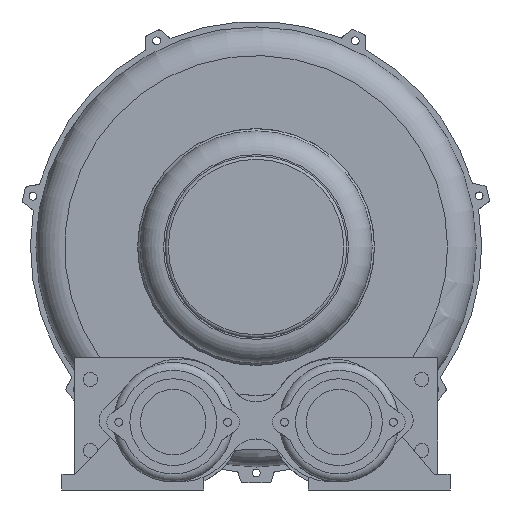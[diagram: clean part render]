
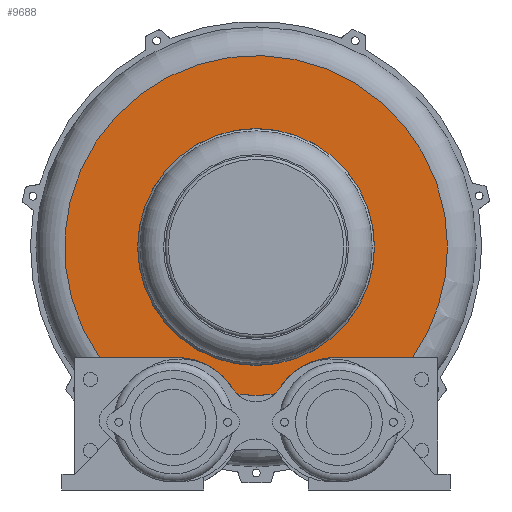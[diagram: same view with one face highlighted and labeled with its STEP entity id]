
A CAD part, front view. The second image highlights one B-rep face of the part: STEP entity #9688.
In plain terms, the highlighted conical face has half-angle 89.974 degrees and reference radius 121.341 mm.
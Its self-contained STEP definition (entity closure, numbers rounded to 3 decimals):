
#20=CONICAL_SURFACE('',#10442,121.341,1.57);
#47=B_SPLINE_CURVE_WITH_KNOTS('',3,(#14998,#14999,#15000,#15001),
 .UNSPECIFIED.,.F.,.F.,(4,4),(0.06,0.109),
 .UNSPECIFIED.);
#49=B_SPLINE_CURVE_WITH_KNOTS('',3,(#15012,#15013,#15014,#15015,#15016,
#15017,#15018,#15019,#15020,#15021),.UNSPECIFIED.,.F.,.F.,(4,1,1,1,1,1,
1,4),(0.,0.012,0.017,0.023,
0.029,0.035,0.04,0.046),
 .UNSPECIFIED.);
#50=B_SPLINE_CURVE_WITH_KNOTS('',3,(#15026,#15027,#15028,#15029,#15030,
#15031,#15032,#15033,#15034,#15035),.UNSPECIFIED.,.F.,.F.,(4,1,1,1,1,1,
1,4),(0.,0.004,0.006,0.008,
0.012,0.016,0.024,0.032),
 .UNSPECIFIED.);
#51=B_SPLINE_CURVE_WITH_KNOTS('',3,(#15039,#15040,#15041,#15042,#15043,
#15044,#15045,#15046,#15047,#15048),.UNSPECIFIED.,.F.,.F.,(4,1,1,1,1,1,
1,4),(0.,0.012,0.017,0.023,
0.029,0.035,0.04,0.046),
 .UNSPECIFIED.);
#53=B_SPLINE_CURVE_WITH_KNOTS('',3,(#15056,#15057,#15058,#15059),
 .UNSPECIFIED.,.F.,.F.,(4,4),(0.05,0.099),
 .UNSPECIFIED.);
#2661=ORIENTED_EDGE('',*,*,#5307,.F.);
#2662=ORIENTED_EDGE('',*,*,#5278,.F.);
#2663=ORIENTED_EDGE('',*,*,#5282,.F.);
#2664=ORIENTED_EDGE('',*,*,#5285,.F.);
#2665=ORIENTED_EDGE('',*,*,#5287,.F.);
#2666=ORIENTED_EDGE('',*,*,#5290,.F.);
#2667=ORIENTED_EDGE('',*,*,#5306,.T.);
#5278=EDGE_CURVE('',#6673,#6674,#47,.T.);
#5282=EDGE_CURVE('',#6676,#6673,#49,.T.);
#5285=EDGE_CURVE('',#6677,#6676,#50,.T.);
#5287=EDGE_CURVE('',#6678,#6677,#51,.T.);
#5290=EDGE_CURVE('',#6679,#6678,#53,.T.);
#5306=EDGE_CURVE('',#6679,#6674,#7602,.T.);
#5307=EDGE_CURVE('',#6690,#6690,#7603,.T.);
#6673=VERTEX_POINT('',#14997);
#6674=VERTEX_POINT('',#15002);
#6676=VERTEX_POINT('',#15011);
#6677=VERTEX_POINT('',#15025);
#6678=VERTEX_POINT('',#15038);
#6679=VERTEX_POINT('',#15055);
#6690=VERTEX_POINT('',#15108);
#7602=CIRCLE('',#10441,121.341);
#7603=CIRCLE('',#10443,75.077);
#8171=EDGE_LOOP('',(#2661));
#8172=EDGE_LOOP('',(#2662,#2663,#2664,#2665,#2666,#2667));
#8803=FACE_BOUND('',#8171,.T.);
#8804=FACE_BOUND('',#8172,.T.);
#9688=ADVANCED_FACE('',(#8803,#8804),#20,.F.);
#10441=AXIS2_PLACEMENT_3D('',#15105,#12087,#12088);
#10442=AXIS2_PLACEMENT_3D('',#15106,#12089,#12090);
#10443=AXIS2_PLACEMENT_3D('',#15107,#12091,#12092);
#12087=DIRECTION('',(0.,-1.,0.));
#12088=DIRECTION('',(1.,0.,0.));
#12089=DIRECTION('',(0.,-1.,0.));
#12090=DIRECTION('',(1.,0.,0.));
#12091=DIRECTION('',(0.,-1.,0.));
#12092=DIRECTION('',(1.,0.,0.));
#14997=CARTESIAN_POINT('',(-50.352,-77.498,-69.994));
#14998=CARTESIAN_POINT('',(-50.352,-77.498,-69.994));
#14999=CARTESIAN_POINT('',(-66.607,-77.502,-69.994));
#15000=CARTESIAN_POINT('',(-82.863,-77.508,-69.994));
#15001=CARTESIAN_POINT('',(-99.118,-77.514,-69.994));
#15002=CARTESIAN_POINT('',(-99.118,-77.514,-69.994));
#15011=CARTESIAN_POINT('',(-12.919,-77.502,-93.203));
#15012=CARTESIAN_POINT('',(-12.919,-77.502,-93.203));
#15013=CARTESIAN_POINT('',(-14.653,-77.5,-89.71));
#15014=CARTESIAN_POINT('',(-17.904,-77.498,-84.95));
#15015=CARTESIAN_POINT('',(-23.558,-77.497,-79.539));
#15016=CARTESIAN_POINT('',(-28.224,-77.496,-76.177));
#15017=CARTESIAN_POINT('',(-33.391,-77.495,-73.442));
#15018=CARTESIAN_POINT('',(-38.848,-77.496,-71.472));
#15019=CARTESIAN_POINT('',(-44.495,-77.497,-70.271));
#15020=CARTESIAN_POINT('',(-48.402,-77.497,-69.994));
#15021=CARTESIAN_POINT('',(-50.352,-77.498,-69.994));
#15025=CARTESIAN_POINT('',(12.919,-77.502,-93.203));
#15026=CARTESIAN_POINT('',(12.919,-77.502,-93.203));
#15027=CARTESIAN_POINT('',(12.32,-77.502,-94.409));
#15028=CARTESIAN_POINT('',(11.198,-77.503,-96.052));
#15029=CARTESIAN_POINT('',(9.247,-77.503,-97.919));
#15030=CARTESIAN_POINT('',(7.095,-77.504,-99.469));
#15031=CARTESIAN_POINT('',(4.006,-77.505,-100.84));
#15032=CARTESIAN_POINT('',(-1.331,-77.505,-101.588));
#15033=CARTESIAN_POINT('',(-7.982,-77.504,-99.7));
#15034=CARTESIAN_POINT('',(-11.722,-77.503,-95.614));
#15035=CARTESIAN_POINT('',(-12.919,-77.502,-93.203));
#15038=CARTESIAN_POINT('',(50.352,-77.498,-69.994));
#15039=CARTESIAN_POINT('',(50.352,-77.498,-69.994));
#15040=CARTESIAN_POINT('',(46.452,-77.497,-69.994));
#15041=CARTESIAN_POINT('',(40.743,-77.496,-70.79));
#15042=CARTESIAN_POINT('',(33.382,-77.495,-73.447));
#15043=CARTESIAN_POINT('',(28.296,-77.496,-76.132));
#15044=CARTESIAN_POINT('',(23.549,-77.497,-79.544));
#15045=CARTESIAN_POINT('',(19.358,-77.498,-83.555));
#15046=CARTESIAN_POINT('',(15.771,-77.499,-88.079));
#15047=CARTESIAN_POINT('',(13.786,-77.501,-91.456));
#15048=CARTESIAN_POINT('',(12.919,-77.502,-93.203));
#15055=CARTESIAN_POINT('',(99.118,-77.514,-69.994));
#15056=CARTESIAN_POINT('',(99.118,-77.514,-69.994));
#15057=CARTESIAN_POINT('',(82.863,-77.508,-69.994));
#15058=CARTESIAN_POINT('',(66.607,-77.502,-69.994));
#15059=CARTESIAN_POINT('',(50.352,-77.498,-69.994));
#15105=CARTESIAN_POINT('',(0.,-77.514,0.));
#15106=CARTESIAN_POINT('',(0.,-77.514,0.));
#15107=CARTESIAN_POINT('',(0.,-77.493,0.));
#15108=CARTESIAN_POINT('',(75.077,-77.493,0.));
